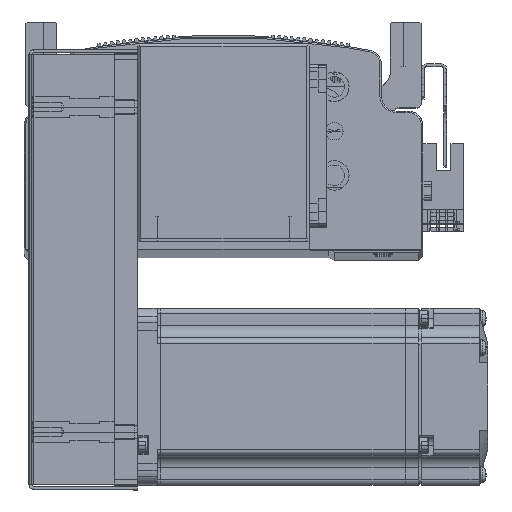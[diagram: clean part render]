
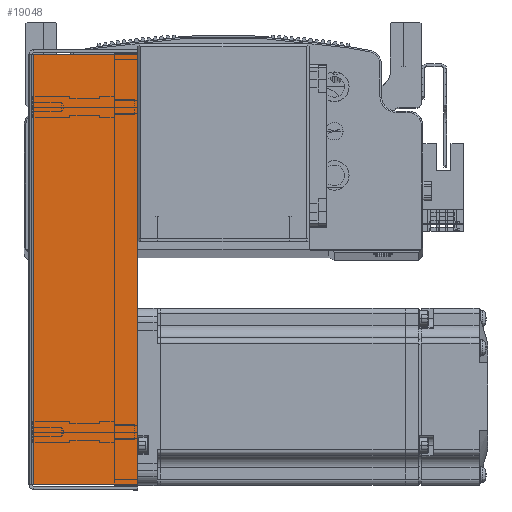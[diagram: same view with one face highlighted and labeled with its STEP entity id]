
A CAD part, top view. The second image highlights one B-rep face of the part: STEP entity #19048.
In plain terms, the highlighted planar face has unit normal (0, 0, 1) as drawn and (0, 0, -1) by its records, which use the part's own axes.
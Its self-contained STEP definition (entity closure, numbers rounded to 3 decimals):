
#6674 = DIRECTION ( 'NONE',  ( 0., -1., 0. ) ) ;
#6709 = DIRECTION ( 'NONE',  ( 0., 0., 1. ) ) ;
#6770 = PLANE ( 'NONE',  #54692 ) ;
#6776 = CARTESIAN_POINT ( 'NONE',  ( 0., 0., -34.5 ) ) ;
#13664 = FACE_OUTER_BOUND ( 'NONE', #80043, .T. ) ;
#19048 = ADVANCED_FACE ( 'NONE', ( #13664 ), #6770, .F. ) ;
#28469 = VERTEX_POINT ( 'NONE', #60143 ) ;
#28487 = VERTEX_POINT ( 'NONE', #60149 ) ;
#28497 = VERTEX_POINT ( 'NONE', #60163 ) ;
#28550 = VERTEX_POINT ( 'NONE', #60215 ) ;
#40777 = CARTESIAN_POINT ( 'NONE',  ( 72.793, 0., -34.5 ) ) ;
#40785 = DIRECTION ( 'NONE',  ( 0., 1., 0. ) ) ;
#40796 = DIRECTION ( 'NONE',  ( 0., 1., 0. ) ) ;
#40803 = CARTESIAN_POINT ( 'NONE',  ( -72.793, 0., -34.5 ) ) ;
#43133 = LINE ( 'NONE', #49655, #43135 ) ;
#43135 = VECTOR ( 'NONE', #49593, 1000. ) ;
#43194 = LINE ( 'NONE', #49810, #43209 ) ;
#43209 = VECTOR ( 'NONE', #49812, 1000. ) ;
#43234 = LINE ( 'NONE', #40777, #43236 ) ;
#43236 = VECTOR ( 'NONE', #40796, 1000. ) ;
#43272 = LINE ( 'NONE', #40803, #43287 ) ;
#43287 = VECTOR ( 'NONE', #40785, 1000. ) ;
#49593 = DIRECTION ( 'NONE',  ( 1., 0., 0. ) ) ;
#49655 = CARTESIAN_POINT ( 'NONE',  ( 74.5, 0.737, -34.5 ) ) ;
#49810 = CARTESIAN_POINT ( 'NONE',  ( 0., 36., -34.5 ) ) ;
#49812 = DIRECTION ( 'NONE',  ( 1., 0., 0. ) ) ;
#54692 = AXIS2_PLACEMENT_3D ( 'NONE', #6776, #6709, #6674 ) ;
#60143 = CARTESIAN_POINT ( 'NONE',  ( -72.793, 0.737, -34.5 ) ) ;
#60149 = CARTESIAN_POINT ( 'NONE',  ( -72.793, 36., -34.5 ) ) ;
#60163 = CARTESIAN_POINT ( 'NONE',  ( 72.793, 0.737, -34.5 ) ) ;
#60215 = CARTESIAN_POINT ( 'NONE',  ( 72.793, 36., -34.5 ) ) ;
#63630 = EDGE_CURVE ( 'NONE', #28469, #28497, #43133, .T. ) ;
#63666 = EDGE_CURVE ( 'NONE', #28487, #28550, #43194, .T. ) ;
#63698 = EDGE_CURVE ( 'NONE', #28469, #28487, #43272, .T. ) ;
#63701 = EDGE_CURVE ( 'NONE', #28497, #28550, #43234, .T. ) ;
#73536 = ORIENTED_EDGE ( 'NONE', *, *, #63630, .F. ) ;
#73541 = ORIENTED_EDGE ( 'NONE', *, *, #63701, .F. ) ;
#73551 = ORIENTED_EDGE ( 'NONE', *, *, #63698, .T. ) ;
#73633 = ORIENTED_EDGE ( 'NONE', *, *, #63666, .T. ) ;
#80043 = EDGE_LOOP ( 'NONE', ( #73536, #73551, #73633, #73541 ) ) ;
